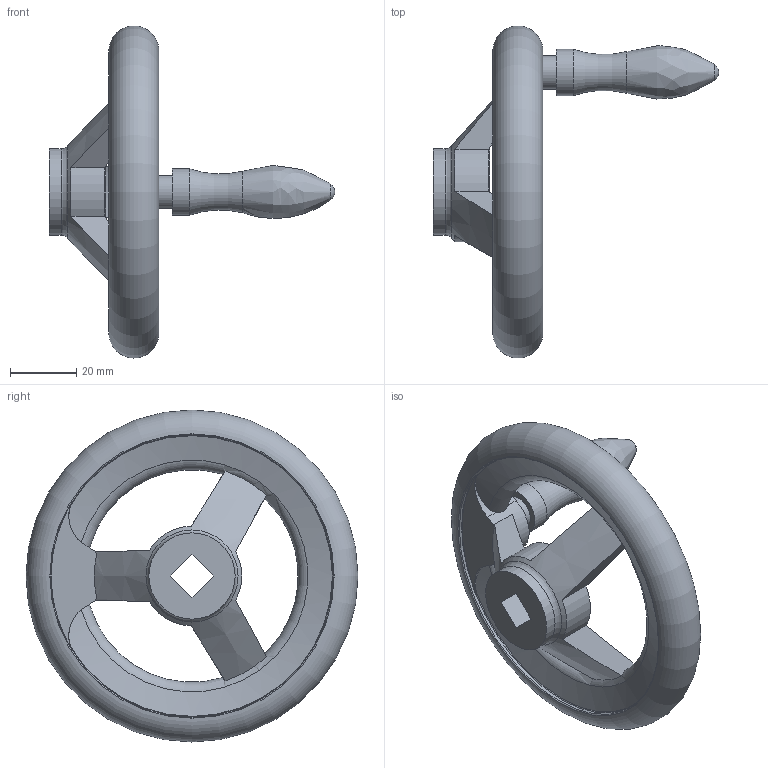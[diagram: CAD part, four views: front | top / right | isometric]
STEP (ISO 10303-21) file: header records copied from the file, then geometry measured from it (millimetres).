
FILE_DESCRIPTION( ( 'STEP AP203' ), '1' );
FILE_NAME( 'C:/Temp/Ganter_Step_05_03_2020/data/1_3/din_950/din_950_v/din_950_v_d/Handwheel DIN 950-GG-100-V9-D.stp', '2020-03-05T10:31:37', ( 'License CC BY-ND 4.0' ), ( 'CADENAS' ), ' ', 'PARTsolutions', ' ' );
FILE_SCHEMA( ( 'CONFIG_CONTROL_DESIGN' ) );
Length unit declared in the file: millimetre
Products named in the file (1): _Handwheel DIN 950-GG-100-V9-D
Bounding box: 86 x 100 x 100 mm (x, y, z)
Volume: 71505.8 mm3; surface area: 21672.7 mm2
Topology: 1 solids, 1 shells, 46 faces, 129 edges, 82 vertices
Faces by surface type: plane 15, cylinder 14, torus 11, cone 4, sphere 1, bspline 1
Full cylindrical faces by diameter (mm): 10 x1, 14 x1, 26 x2, 85 x2
Entity records: 1707 total; most frequent: CARTESIAN_POINT 610, ORIENTED_EDGE 210, DIRECTION 204, EDGE_CURVE 105, AXIS2_PLACEMENT_3D 90, VERTEX_POINT 78, EDGE_LOOP 69, FACE_OUTER_BOUND 61
